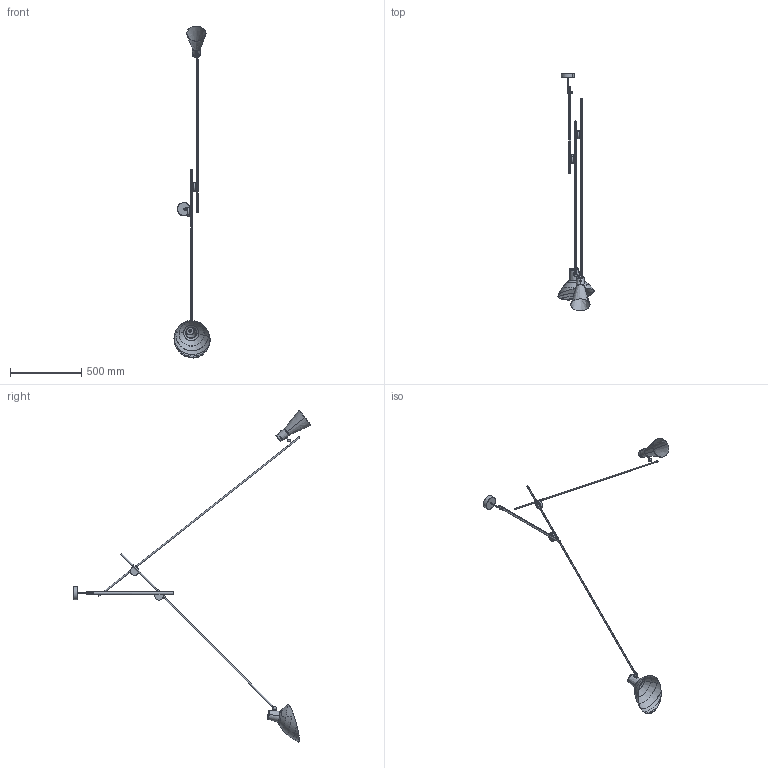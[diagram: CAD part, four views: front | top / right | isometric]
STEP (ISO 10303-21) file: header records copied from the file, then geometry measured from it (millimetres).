
FILE_DESCRIPTION(/* description */ (''),/* implementation_level */ '2;1');
FILE_NAME(/* name */ 'VV Cinquanta Suspension',/* time_stamp */ '2017-06-09T15:28:39+02:00',/* author */ (''),/* organization */ (''),/* preprocessor_version */ 'ST-DEVELOPER v15',/* originating_system */ '',/* authorisation */ '');
FILE_SCHEMA (('AUTOMOTIVE_DESIGN'));
Length unit declared in the file: millimetre
Products named in the file (1): Document
Bounding box: 253.81 x 1674.38 x 2336.48 mm (x, y, z)
Volume: 406365.5 mm3; surface area: 640385.6 mm2
Topology: 26 solids, 27 shells, 237 faces, 572 edges, 376 vertices
Faces by surface type: bspline 148, plane 89
Entity records: 9103 total; most frequent: CARTESIAN_POINT 5438, ORIENTED_EDGE 1128, EDGE_CURVE 568, VERTEX_POINT 376, EDGE_LOOP 270, ADVANCED_FACE 237, FACE_OUTER_BOUND 237, B_SPLINE_CURVE_WITH_KNOTS 220
